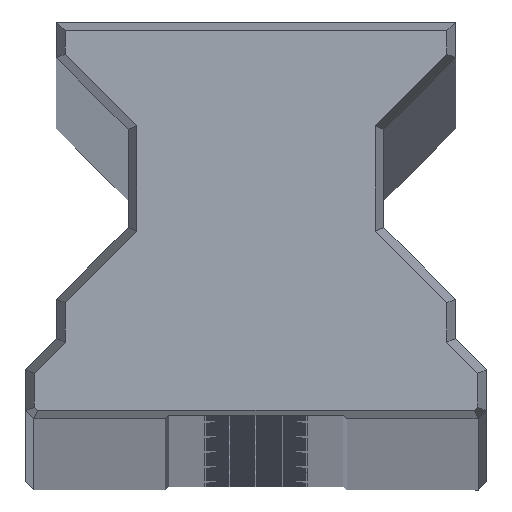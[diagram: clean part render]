
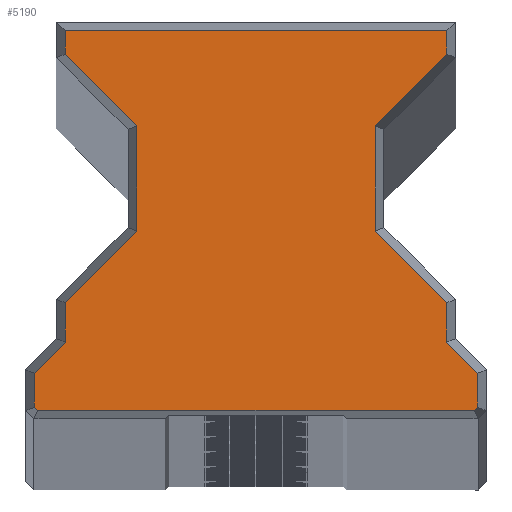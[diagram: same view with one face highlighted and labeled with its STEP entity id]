
A CAD part, top view. The second image highlights one B-rep face of the part: STEP entity #5190.
In plain terms, the highlighted planar face has unit normal (0, 0, 1).
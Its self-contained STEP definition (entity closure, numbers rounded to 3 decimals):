
#734=DIRECTION('',(1.,0.,0.));
#735=VECTOR('',#734,42.696);
#736=CARTESIAN_POINT('',(-21.348,0.85,0.));
#737=LINE('',#736,#735);
#738=DIRECTION('',(0.707,-0.707,0.));
#739=VECTOR('',#738,0.427);
#740=CARTESIAN_POINT('',(-21.65,1.152,0.));
#741=LINE('',#740,#739);
#742=DIRECTION('',(0.,-1.,0.));
#743=VECTOR('',#742,3.3);
#744=CARTESIAN_POINT('',(-21.65,4.452,0.));
#745=LINE('',#744,#743);
#746=DIRECTION('',(0.701,0.713,0.));
#747=VECTOR('',#746,4.281);
#748=CARTESIAN_POINT('',(-21.65,4.452,0.));
#749=LINE('',#748,#747);
#750=DIRECTION('',(0.,-1.,0.));
#751=VECTOR('',#750,3.841);
#752=CARTESIAN_POINT('',(-18.65,11.348,0.));
#753=LINE('',#752,#751);
#754=DIRECTION('',(-0.707,-0.707,0.));
#755=VECTOR('',#754,9.899);
#756=CARTESIAN_POINT('',(-11.65,18.348,0.));
#757=LINE('',#756,#755);
#758=DIRECTION('',(0.,-1.,0.));
#759=VECTOR('',#758,10.304);
#760=CARTESIAN_POINT('',(-11.65,28.652,0.));
#761=LINE('',#760,#759);
#762=DIRECTION('',(0.707,-0.707,0.));
#763=VECTOR('',#762,9.899);
#764=CARTESIAN_POINT('',(-18.65,35.652,0.));
#765=LINE('',#764,#763);
#766=DIRECTION('',(0.,-1.,0.));
#767=VECTOR('',#766,2.298);
#768=CARTESIAN_POINT('',(-18.65,37.95,0.));
#769=LINE('',#768,#767);
#770=DIRECTION('',(-1.,0.,0.));
#771=VECTOR('',#770,37.3);
#772=CARTESIAN_POINT('',(18.65,37.95,0.));
#773=LINE('',#772,#771);
#774=DIRECTION('',(0.,1.,0.));
#775=VECTOR('',#774,2.298);
#776=CARTESIAN_POINT('',(18.65,35.652,0.));
#777=LINE('',#776,#775);
#778=DIRECTION('',(-0.707,-0.707,0.));
#779=VECTOR('',#778,9.899);
#780=CARTESIAN_POINT('',(18.65,35.652,0.));
#781=LINE('',#780,#779);
#782=DIRECTION('',(0.,1.,0.));
#783=VECTOR('',#782,10.304);
#784=CARTESIAN_POINT('',(11.65,18.348,0.));
#785=LINE('',#784,#783);
#786=DIRECTION('',(-0.707,0.707,0.));
#787=VECTOR('',#786,9.899);
#788=CARTESIAN_POINT('',(18.65,11.348,0.));
#789=LINE('',#788,#787);
#790=DIRECTION('',(0.,1.,0.));
#791=VECTOR('',#790,3.841);
#792=CARTESIAN_POINT('',(18.65,7.507,0.));
#793=LINE('',#792,#791);
#794=DIRECTION('',(-0.701,0.713,0.));
#795=VECTOR('',#794,4.281);
#796=CARTESIAN_POINT('',(21.65,4.452,0.));
#797=LINE('',#796,#795);
#798=DIRECTION('',(0.,1.,0.));
#799=VECTOR('',#798,3.3);
#800=CARTESIAN_POINT('',(21.65,1.152,0.));
#801=LINE('',#800,#799);
#802=DIRECTION('',(0.707,0.707,0.));
#803=VECTOR('',#802,0.427);
#804=CARTESIAN_POINT('',(21.348,0.85,0.));
#805=LINE('',#804,#803);
#3718=CARTESIAN_POINT('',(-21.348,0.85,0.));
#3719=CARTESIAN_POINT('',(21.348,0.85,0.));
#3720=VERTEX_POINT('',#3718);
#3721=VERTEX_POINT('',#3719);
#3722=CARTESIAN_POINT('',(21.65,1.152,0.));
#3723=VERTEX_POINT('',#3722);
#3724=CARTESIAN_POINT('',(21.65,4.452,0.));
#3725=VERTEX_POINT('',#3724);
#3726=CARTESIAN_POINT('',(18.65,7.507,0.));
#3727=VERTEX_POINT('',#3726);
#3728=CARTESIAN_POINT('',(18.65,11.348,0.));
#3729=VERTEX_POINT('',#3728);
#3730=CARTESIAN_POINT('',(11.65,18.348,0.));
#3731=VERTEX_POINT('',#3730);
#3732=CARTESIAN_POINT('',(11.65,28.652,0.));
#3733=VERTEX_POINT('',#3732);
#3734=CARTESIAN_POINT('',(18.65,35.652,0.));
#3735=VERTEX_POINT('',#3734);
#3736=CARTESIAN_POINT('',(18.65,37.95,0.));
#3737=VERTEX_POINT('',#3736);
#3738=CARTESIAN_POINT('',(-18.65,37.95,0.));
#3739=VERTEX_POINT('',#3738);
#3740=CARTESIAN_POINT('',(-18.65,35.652,0.));
#3741=VERTEX_POINT('',#3740);
#3742=CARTESIAN_POINT('',(-11.65,28.652,0.));
#3743=VERTEX_POINT('',#3742);
#3744=CARTESIAN_POINT('',(-11.65,18.348,0.));
#3745=VERTEX_POINT('',#3744);
#3746=CARTESIAN_POINT('',(-18.65,11.348,0.));
#3747=VERTEX_POINT('',#3746);
#3748=CARTESIAN_POINT('',(-18.65,7.507,0.));
#3749=VERTEX_POINT('',#3748);
#3750=CARTESIAN_POINT('',(-21.65,4.452,0.));
#3751=VERTEX_POINT('',#3750);
#4542=CARTESIAN_POINT('',(-21.65,1.152,0.));
#4543=VERTEX_POINT('',#4542);
#5148=CARTESIAN_POINT('',(0.,0.,0.));
#5149=DIRECTION('',(0.,0.,1.));
#5150=DIRECTION('',(1.,0.,0.));
#5151=AXIS2_PLACEMENT_3D('',#5148,#5149,#5150);
#5152=PLANE('',#5151);
#5154=ORIENTED_EDGE('',*,*,#5153,.F.);
#5156=ORIENTED_EDGE('',*,*,#5155,.F.);
#5158=ORIENTED_EDGE('',*,*,#5157,.F.);
#5160=ORIENTED_EDGE('',*,*,#5159,.T.);
#5162=ORIENTED_EDGE('',*,*,#5161,.F.);
#5164=ORIENTED_EDGE('',*,*,#5163,.F.);
#5166=ORIENTED_EDGE('',*,*,#5165,.F.);
#5167=ORIENTED_EDGE('',*,*,#5138,.F.);
#5169=ORIENTED_EDGE('',*,*,#5168,.F.);
#5171=ORIENTED_EDGE('',*,*,#5170,.F.);
#5173=ORIENTED_EDGE('',*,*,#5172,.F.);
#5175=ORIENTED_EDGE('',*,*,#5174,.T.);
#5177=ORIENTED_EDGE('',*,*,#5176,.F.);
#5179=ORIENTED_EDGE('',*,*,#5178,.F.);
#5181=ORIENTED_EDGE('',*,*,#5180,.F.);
#5183=ORIENTED_EDGE('',*,*,#5182,.F.);
#5185=ORIENTED_EDGE('',*,*,#5184,.F.);
#5187=ORIENTED_EDGE('',*,*,#5186,.F.);
#5188=EDGE_LOOP('',(#5154,#5156,#5158,#5160,#5162,#5164,#5166,#5167,#5169,#5171,
#5173,#5175,#5177,#5179,#5181,#5183,#5185,#5187));
#5189=FACE_OUTER_BOUND('',#5188,.F.);
#5138=EDGE_CURVE('',#3741,#3743,#765,.T.);
#5153=EDGE_CURVE('',#3720,#3721,#737,.T.);
#5155=EDGE_CURVE('',#4543,#3720,#741,.T.);
#5157=EDGE_CURVE('',#3751,#4543,#745,.T.);
#5159=EDGE_CURVE('',#3751,#3749,#749,.T.);
#5161=EDGE_CURVE('',#3747,#3749,#753,.T.);
#5163=EDGE_CURVE('',#3745,#3747,#757,.T.);
#5165=EDGE_CURVE('',#3743,#3745,#761,.T.);
#5168=EDGE_CURVE('',#3739,#3741,#769,.T.);
#5170=EDGE_CURVE('',#3737,#3739,#773,.T.);
#5172=EDGE_CURVE('',#3735,#3737,#777,.T.);
#5174=EDGE_CURVE('',#3735,#3733,#781,.T.);
#5176=EDGE_CURVE('',#3731,#3733,#785,.T.);
#5178=EDGE_CURVE('',#3729,#3731,#789,.T.);
#5180=EDGE_CURVE('',#3727,#3729,#793,.T.);
#5182=EDGE_CURVE('',#3725,#3727,#797,.T.);
#5184=EDGE_CURVE('',#3723,#3725,#801,.T.);
#5186=EDGE_CURVE('',#3721,#3723,#805,.T.);
#5190=ADVANCED_FACE('',(#5189),#5152,.T.);
